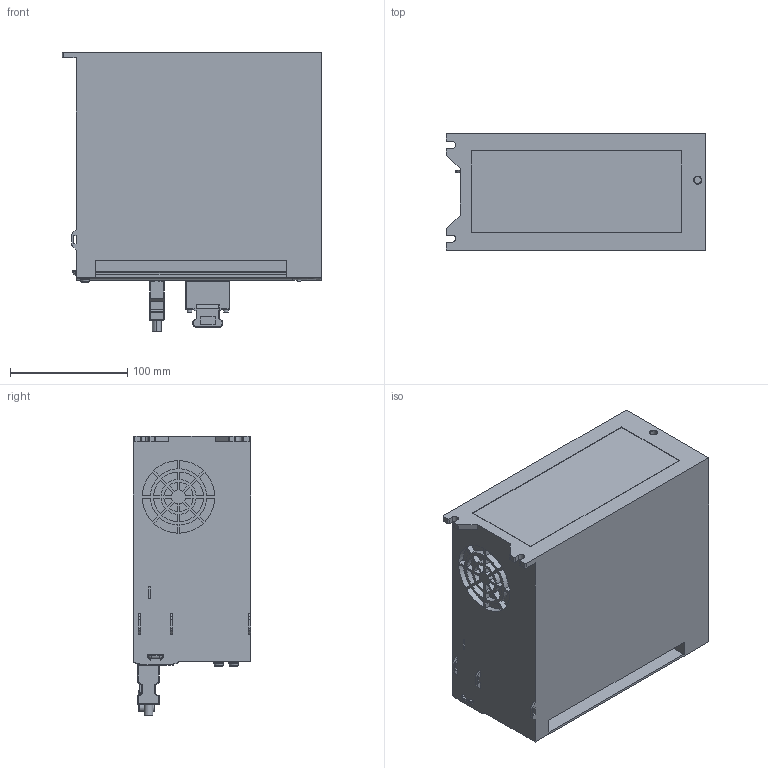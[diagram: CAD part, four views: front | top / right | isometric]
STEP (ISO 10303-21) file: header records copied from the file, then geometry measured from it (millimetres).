
FILE_DESCRIPTION (( 'STEP AP214' ), '1' );
FILE_NAME ('Ω6s-AN-D型-通用&基础-整机外形图.STEP', '2023-04-19T06:09:26', ( '' ), ( '' ), 'SwSTEP 2.0', 'SolidWorks 2014', '' );
FILE_SCHEMA (( 'AUTOMOTIVE_DESIGN' ));
Length unit declared in the file: millimetre
Products named in the file (14): JDZcoder; jxgb1; 26pinMDRplug; 3KWK; STOM2X04P; M4-H8; 次6s-AN-D倰-籵蚚&價插-淕儂俋倛芞
Assembly tree (7 placements, depth 2):
  26pinMDRplug
  JDZcoder
  3KWK
  STOM2X04P
  M4-H8
Bounding box: 222 x 100 x 239.2 mm (x, y, z)
Volume: 3497431.4 mm3; surface area: 411590.3 mm2
Topology: 11 solids, 11 shells, 1368 faces, 3739 edges, 2429 vertices
Faces by surface type: plane 931, cylinder 356, bspline 35, sphere 18, cone 16, torus 12
Entity records: 44245 total; most frequent: CARTESIAN_POINT 9359, ORIENTED_EDGE 7238, DIRECTION 6802, EDGE_CURVE 3619, VECTOR 2842, LINE 2842, VERTEX_POINT 2365, AXIS2_PLACEMENT_3D 1980
